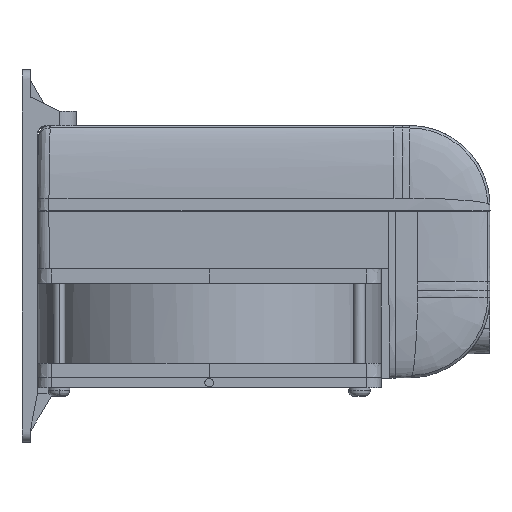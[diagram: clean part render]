
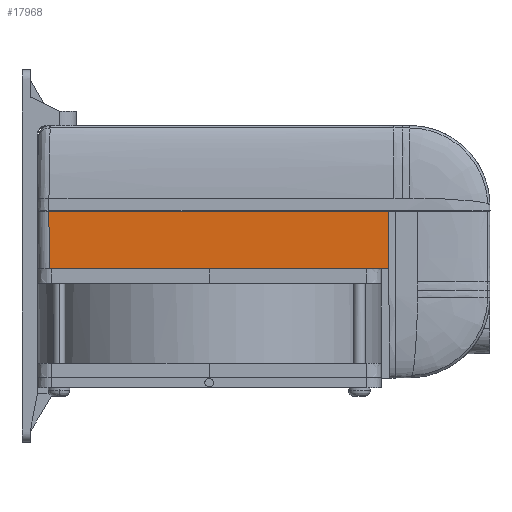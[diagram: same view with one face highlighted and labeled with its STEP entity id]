
A CAD part, left-side view. The second image highlights one B-rep face of the part: STEP entity #17968.
In plain terms, the highlighted planar face has unit normal (-1, 0, -0.018).
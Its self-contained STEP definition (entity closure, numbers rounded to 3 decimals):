
#5576 = CARTESIAN_POINT ( 'NONE',  ( -33.79, 54.001, -32.5 ) ) ;
#7083 = EDGE_CURVE ( 'NONE', #42559, #60390, #98386, .T. ) ;
#9094 = ORIENTED_EDGE ( 'NONE', *, *, #69956, .T. ) ;
#11145 = VERTEX_POINT ( 'NONE', #90559 ) ;
#13303 = PLANE ( 'NONE',  #89685 ) ;
#17968 = ADVANCED_FACE ( 'NONE', ( #109033 ), #13303, .T. ) ;
#24199 = CARTESIAN_POINT ( 'NONE',  ( -33.79, 54.001, -32.5 ) ) ;
#27807 = B_SPLINE_CURVE_WITH_KNOTS ( 'NONE', 1,
 ( #36857, #100230 ),
 .UNSPECIFIED., .F., .F.,
 ( 2, 2 ),
 ( -118.494, 0. ),
 .UNSPECIFIED. ) ;
#29155 = CARTESIAN_POINT ( 'NONE',  ( -33.828, 66.002, -30.363 ) ) ;
#36857 = CARTESIAN_POINT ( 'NONE',  ( -33.79, 54.001, -32.5 ) ) ;
#41398 = ORIENTED_EDGE ( 'NONE', *, *, #92750, .F. ) ;
#42559 = VERTEX_POINT ( 'NONE', #81718 ) ;
#55608 = DIRECTION ( 'NONE',  ( -1., 0., -0.017 ) ) ;
#57306 = CARTESIAN_POINT ( 'NONE',  ( -33.441, -64.667, -52.5 ) ) ;
#58184 = B_SPLINE_CURVE_WITH_KNOTS ( 'NONE', 1,
 ( #58987, #5576 ),
 .UNSPECIFIED., .F., .F.,
 ( 2, 2 ),
 ( 0., 20.006 ),
 .UNSPECIFIED. ) ;
#58987 = CARTESIAN_POINT ( 'NONE',  ( -33.441, 53.652, -52.5 ) ) ;
#60390 = VERTEX_POINT ( 'NONE', #73188 ) ;
#63189 = VERTEX_POINT ( 'NONE', #24199 ) ;
#64358 = CARTESIAN_POINT ( 'NONE',  ( -33.441, 53.652, -52.5 ) ) ;
#69956 = EDGE_CURVE ( 'NONE', #11145, #42559, #86358, .T. ) ;
#73188 = CARTESIAN_POINT ( 'NONE',  ( -33.79, -64.493, -32.5 ) ) ;
#80160 = EDGE_LOOP ( 'NONE', ( #9094, #81578, #41398, #95631 ) ) ;
#81578 = ORIENTED_EDGE ( 'NONE', *, *, #7083, .T. ) ;
#81718 = CARTESIAN_POINT ( 'NONE',  ( -33.441, -64.667, -52.5 ) ) ;
#83349 = CARTESIAN_POINT ( 'NONE',  ( -33.441, -64.667, -52.5 ) ) ;
#84163 = EDGE_CURVE ( 'NONE', #11145, #63189, #58184, .T. ) ;
#86358 = B_SPLINE_CURVE_WITH_KNOTS ( 'NONE', 1,
 ( #64358, #57306 ),
 .UNSPECIFIED., .F., .F.,
 ( 2, 2 ),
 ( -118.319, 0. ),
 .UNSPECIFIED. ) ;
#89685 = AXIS2_PLACEMENT_3D ( 'NONE', #29155, #55608, #111342 ) ;
#90559 = CARTESIAN_POINT ( 'NONE',  ( -33.441, 53.652, -52.5 ) ) ;
#92750 = EDGE_CURVE ( 'NONE', #63189, #60390, #27807, .T. ) ;
#95631 = ORIENTED_EDGE ( 'NONE', *, *, #84163, .F. ) ;
#98386 = B_SPLINE_CURVE_WITH_KNOTS ( 'NONE', 1,
 ( #83349, #109774 ),
 .UNSPECIFIED., .F., .F.,
 ( 2, 2 ),
 ( -20.004, 0. ),
 .UNSPECIFIED. ) ;
#100230 = CARTESIAN_POINT ( 'NONE',  ( -33.79, -64.493, -32.5 ) ) ;
#109033 = FACE_OUTER_BOUND ( 'NONE', #80160, .T. ) ;
#109774 = CARTESIAN_POINT ( 'NONE',  ( -33.79, -64.493, -32.5 ) ) ;
#111342 = DIRECTION ( 'NONE',  ( -0.017, 0., 1. ) ) ;
